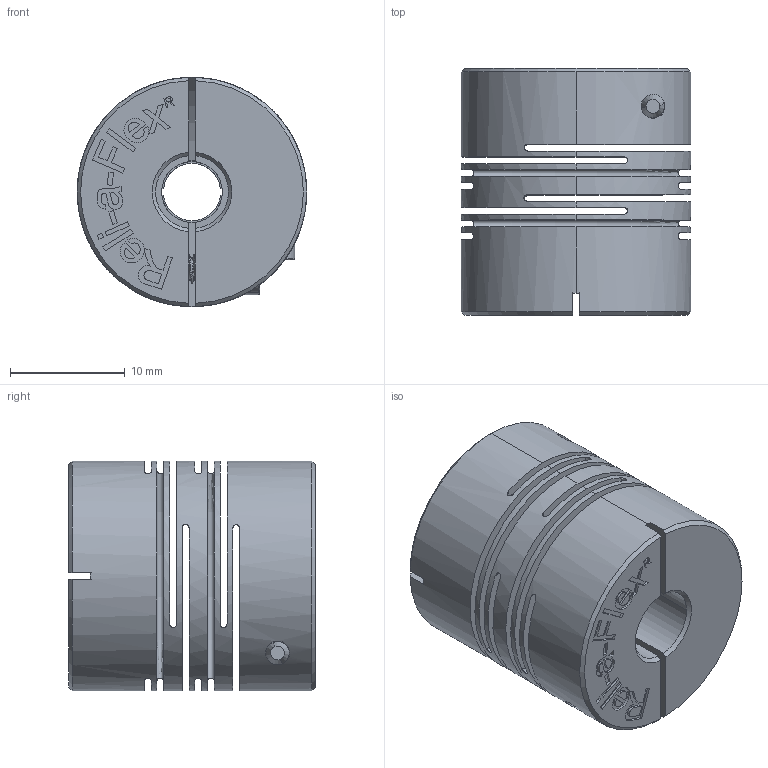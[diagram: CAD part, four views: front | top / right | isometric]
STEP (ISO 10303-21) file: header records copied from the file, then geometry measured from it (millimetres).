
FILE_DESCRIPTION (( 'STEP AP203' ), '1' );
FILE_NAME ('RCSA20C-0.250-5.STEP', '2012-04-26T13:33:50', ( 'render' ), ( '' ), 'SwSTEP 2.0', 'SolidWorks 2011', '' );
FILE_SCHEMA (( 'CONFIG_CONTROL_DESIGN' ));
Length unit declared in the file: millimetre
Products named in the file (1): RCSA20C-0.250-5
Bounding box: 20 x 21.5 x 20 mm (x, y, z)
Volume: 4901.8 mm3; surface area: 6720.9 mm2
Topology: 3 solids, 3 shells, 357 faces, 966 edges, 639 vertices
Faces by surface type: plane 158, cylinder 157, cone 18, torus 16, bspline 8
Entity records: 21039 total; most frequent: CARTESIAN_POINT 12285, ORIENTED_EDGE 1932, DIRECTION 1696, EDGE_CURVE 966, VERTEX_POINT 639, AXIS2_PLACEMENT_3D 594, LINE 508, VECTOR 508
